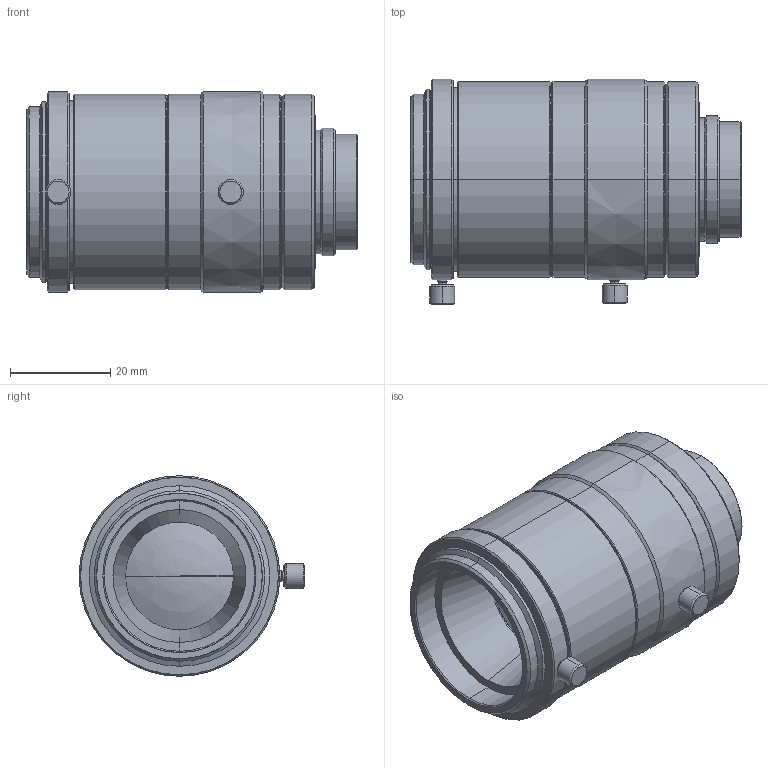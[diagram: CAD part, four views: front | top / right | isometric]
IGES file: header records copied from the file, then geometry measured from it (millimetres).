
Start section: SolidWorks IGES file using analytic representation for surfaces
Global section: file name: C:\Users\matsui_VST\Desktop\AutoCAD図面DATA\●・HVA1226 (VS-HVA1226) (D-2100237)-4_(HVA5024 (VS-HVA5024) (D-2100239)共通)  (３Dモデル)\VS-HVA5024.IGS; native system: SolidWorks 2021; preprocessor: SolidWorks 2021; author: matsui_VST; date: 220322.155904; units: millimetre
Bounding box: 65.77 x 45 x 40 mm (x, y, z)
Surface area: 12770.3 mm2 (no closed solid volume)
Topology: 0 solids, 0 shells, 128 faces, 2268 edges, 2265 vertices
Faces by surface type: revolution 108, bspline 20
